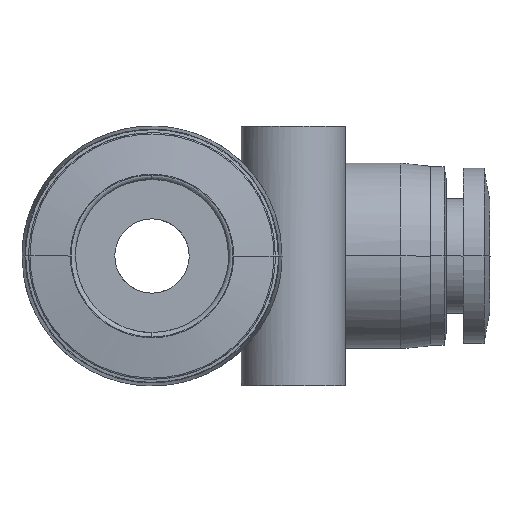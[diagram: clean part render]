
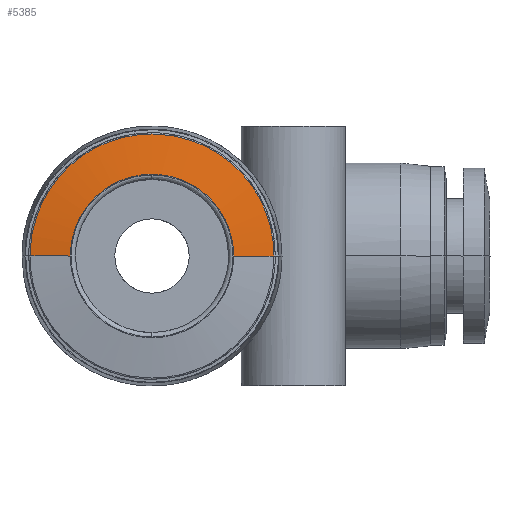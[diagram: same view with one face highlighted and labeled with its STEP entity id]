
A CAD part, front view. The second image highlights one B-rep face of the part: STEP entity #5385.
In plain terms, the highlighted conical face has half-angle 81.87 degrees and reference radius 6.9 mm.
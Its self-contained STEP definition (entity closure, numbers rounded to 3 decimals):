
#8 = ORIENTED_EDGE ( 'NONE', *, *, #8950, .T. ) ;
#392 = CARTESIAN_POINT ( 'NONE',  ( 5.357, -39.2, 1.44 ) ) ;
#734 = VERTEX_POINT ( 'NONE', #3793 ) ;
#974 = EDGE_CURVE ( 'NONE', #5300, #6334, #4582, .T. ) ;
#1041 = DIRECTION ( 'NONE',  ( -0.99, 0.141, 0. ) ) ;
#1050 = CARTESIAN_POINT ( 'NONE',  ( 3.38, -39.2, 4.398 ) ) ;
#1073 = CARTESIAN_POINT ( 'NONE',  ( 7.177, -38.812, 4.137 ) ) ;
#1737 = CARTESIAN_POINT ( 'NONE',  ( -5.5, -39.2, 0. ) ) ;
#1803 = CARTESIAN_POINT ( 'NONE',  ( 5.048, -38.812, 6.569 ) ) ;
#1810 = FACE_OUTER_BOUND ( 'NONE', #7614, .T. ) ;
#1822 = CARTESIAN_POINT ( 'NONE',  ( -0.72, -39.2, 5.5 ) ) ;
#1862 = B_SPLINE_CURVE_WITH_KNOTS ( 'NONE', 3,
 ( #6802, #3282, #2592, #5413, #8237, #9021, #1899, #7549, #2638, #4902 ),
 .UNSPECIFIED., .F., .F.,
 ( 4, 2, 2, 2, 4 ),
 ( 0., 0.063, 0.125, 0.188, 0.25 ),
 .UNSPECIFIED. ) ;
#1865 = CARTESIAN_POINT ( 'NONE',  ( -1.44, -39.2, 5.357 ) ) ;
#1867 = VECTOR ( 'NONE', #5574, 1000. ) ;
#1899 = CARTESIAN_POINT ( 'NONE',  ( -4.137, -38.812, 7.177 ) ) ;
#1988 = CARTESIAN_POINT ( 'NONE',  ( 4.137, -38.812, 7.177 ) ) ;
#2592 = CARTESIAN_POINT ( 'NONE',  ( -8., -38.812, 2.15 ) ) ;
#2638 = CARTESIAN_POINT ( 'NONE',  ( -1.075, -38.812, 8.214 ) ) ;
#3235 = VERTEX_POINT ( 'NONE', #5553 ) ;
#3282 = CARTESIAN_POINT ( 'NONE',  ( -8.214, -38.812, 1.075 ) ) ;
#3368 = CARTESIAN_POINT ( 'NONE',  ( 2.15, -38.812, 8. ) ) ;
#3793 = CARTESIAN_POINT ( 'NONE',  ( -5.5, -39.2, 0. ) ) ;
#3861 = CARTESIAN_POINT ( 'NONE',  ( 4.398, -39.2, 3.38 ) ) ;
#3946 = CARTESIAN_POINT ( 'NONE',  ( -2.77, -39.2, 4.806 ) ) ;
#4284 = CONICAL_SURFACE ( 'NONE', #8420, 6.9, 1.429 ) ;
#4326 = ORIENTED_EDGE ( 'NONE', *, *, #6594, .F. ) ;
#4553 = CARTESIAN_POINT ( 'NONE',  ( 0.72, -39.2, 5.5 ) ) ;
#4582 = B_SPLINE_CURVE_WITH_KNOTS ( 'NONE', 3,
 ( #6890, #6109, #3368, #1988, #1803, #4619, #1073, #7451, #6063, #8879 ),
 .UNSPECIFIED., .F., .F.,
 ( 4, 2, 2, 2, 4 ),
 ( 0.25, 0.313, 0.375, 0.438, 0.5 ),
 .UNSPECIFIED. ) ;
#4619 = CARTESIAN_POINT ( 'NONE',  ( 6.569, -38.812, 5.048 ) ) ;
#4625 = DIRECTION ( 'NONE',  ( -1., 0., 0. ) ) ;
#4902 = CARTESIAN_POINT ( 'NONE',  ( 0., -38.812, 8.214 ) ) ;
#4993 = EDGE_CURVE ( 'NONE', #734, #3235, #7047, .T. ) ;
#5005 = CARTESIAN_POINT ( 'NONE',  ( 0., -38.812, 8.214 ) ) ;
#5249 = CARTESIAN_POINT ( 'NONE',  ( 8.214, -38.812, 0. ) ) ;
#5300 = VERTEX_POINT ( 'NONE', #5005 ) ;
#5332 = CARTESIAN_POINT ( 'NONE',  ( 2.77, -39.2, 4.806 ) ) ;
#5377 = CARTESIAN_POINT ( 'NONE',  ( -4.398, -39.2, 3.38 ) ) ;
#5385 = ADVANCED_FACE ( 'NONE', ( #1810 ), #4284, .T. ) ;
#5413 = CARTESIAN_POINT ( 'NONE',  ( -7.177, -38.812, 4.137 ) ) ;
#5486 = EDGE_CURVE ( 'NONE', #6653, #5300, #1862, .T. ) ;
#5553 = CARTESIAN_POINT ( 'NONE',  ( 5.5, -39.2, 0. ) ) ;
#5574 = DIRECTION ( 'NONE',  ( 0.99, 0.141, 0. ) ) ;
#5626 = ORIENTED_EDGE ( 'NONE', *, *, #5486, .F. ) ;
#5948 = CARTESIAN_POINT ( 'NONE',  ( 5.5, -39.2, 0.72 ) ) ;
#5984 = LINE ( 'NONE', #7374, #6752 ) ;
#6063 = CARTESIAN_POINT ( 'NONE',  ( 8.214, -38.812, 1.075 ) ) ;
#6083 = CARTESIAN_POINT ( 'NONE',  ( -4.806, -39.2, 2.77 ) ) ;
#6109 = CARTESIAN_POINT ( 'NONE',  ( 1.075, -38.812, 8.214 ) ) ;
#6334 = VERTEX_POINT ( 'NONE', #5249 ) ;
#6594 = EDGE_CURVE ( 'NONE', #734, #6653, #5984, .T. ) ;
#6653 = VERTEX_POINT ( 'NONE', #7639 ) ;
#6657 = ORIENTED_EDGE ( 'NONE', *, *, #974, .F. ) ;
#6704 = ORIENTED_EDGE ( 'NONE', *, *, #4993, .T. ) ;
#6752 = VECTOR ( 'NONE', #1041, 1000. ) ;
#6802 = CARTESIAN_POINT ( 'NONE',  ( -8.214, -38.812, 0. ) ) ;
#6890 = CARTESIAN_POINT ( 'NONE',  ( 0., -38.812, 8.214 ) ) ;
#6917 = CARTESIAN_POINT ( 'NONE',  ( 6.9, -39., 0. ) ) ;
#7047 = B_SPLINE_CURVE_WITH_KNOTS ( 'NONE', 3,
 ( #1737, #8156, #7385, #6083, #5377, #8721, #3946, #1865, #1822, #4553, #8897, #5332, #1050, #3861, #8813, #392, #5948, #8199 ),
 .UNSPECIFIED., .F., .F.,
 ( 4, 2, 2, 2, 2, 2, 2, 2, 4 ),
 ( 0., 0.063, 0.125, 0.188, 0.25, 0.313, 0.375, 0.438, 0.5 ),
 .UNSPECIFIED. ) ;
#7059 = LINE ( 'NONE', #6917, #1867 ) ;
#7374 = CARTESIAN_POINT ( 'NONE',  ( -6.9, -39., 0. ) ) ;
#7385 = CARTESIAN_POINT ( 'NONE',  ( -5.357, -39.2, 1.44 ) ) ;
#7417 = CARTESIAN_POINT ( 'NONE',  ( 0., -39., 0. ) ) ;
#7451 = CARTESIAN_POINT ( 'NONE',  ( 8., -38.812, 2.15 ) ) ;
#7549 = CARTESIAN_POINT ( 'NONE',  ( -2.15, -38.812, 8. ) ) ;
#7614 = EDGE_LOOP ( 'NONE', ( #6704, #8, #6657, #5626, #4326 ) ) ;
#7639 = CARTESIAN_POINT ( 'NONE',  ( -8.214, -38.812, 0. ) ) ;
#8147 = DIRECTION ( 'NONE',  ( 0., 1., 0. ) ) ;
#8156 = CARTESIAN_POINT ( 'NONE',  ( -5.5, -39.2, 0.72 ) ) ;
#8199 = CARTESIAN_POINT ( 'NONE',  ( 5.5, -39.2, 0. ) ) ;
#8237 = CARTESIAN_POINT ( 'NONE',  ( -6.569, -38.812, 5.048 ) ) ;
#8420 = AXIS2_PLACEMENT_3D ( 'NONE', #7417, #8147, #4625 ) ;
#8721 = CARTESIAN_POINT ( 'NONE',  ( -3.38, -39.2, 4.398 ) ) ;
#8813 = CARTESIAN_POINT ( 'NONE',  ( 4.806, -39.2, 2.77 ) ) ;
#8879 = CARTESIAN_POINT ( 'NONE',  ( 8.214, -38.812, 0. ) ) ;
#8897 = CARTESIAN_POINT ( 'NONE',  ( 1.44, -39.2, 5.357 ) ) ;
#8950 = EDGE_CURVE ( 'NONE', #3235, #6334, #7059, .T. ) ;
#9021 = CARTESIAN_POINT ( 'NONE',  ( -5.048, -38.812, 6.569 ) ) ;
